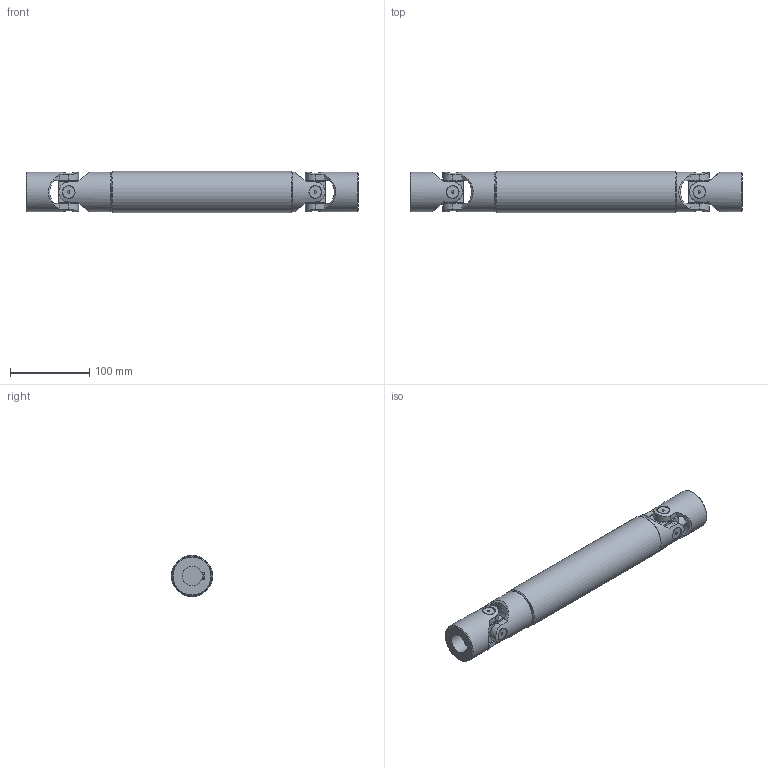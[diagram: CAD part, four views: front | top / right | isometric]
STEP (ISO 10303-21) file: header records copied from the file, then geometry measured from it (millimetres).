
FILE_DESCRIPTION(/* description */ (''),/* implementation_level */ '2;1');
FILE_NAME(/* name */ '\\SRV2016\Societa\Stefano\Disegni 3D\00Catalogo 3D\03Trasmissioni standard GA\5GA26\5GA26_SG0A2526.stp',/* time_stamp */ '2022-03-15T16:35:54+01:00',/* author */ ('acquisti'),/* organization */ (''),/* preprocessor_version */ 'ST-DEVELOPER v15.6',/* originating_system */ 'Autodesk Inventor 2015',/* authorisation */ '');
FILE_SCHEMA (('AUTOMOTIVE_DESIGN { 1 0 10303 214 3 1 1 }'));
Length unit declared in the file: millimetre
Products named in the file (5): 5G MOC; 5G SFE; 5GA26 LAI; 5GA26 LCI; 5GA26_SG0A2526
Assembly tree (6 placements, depth 2):
  5GA26_SG0A2526
    5G MOC  x2
    5G SFE  x2
    5GA26 LAI
    5GA26 LCI
Bounding box: 420 x 52.5 x 52.5 mm (x, y, z)
Volume: 580549.6 mm3; surface area: 154783.8 mm2
Topology: 6 solids, 6 shells, 204 faces, 513 edges, 345 vertices
Faces by surface type: plane 108, cylinder 68, cone 24, torus 4
Full cylindrical faces by diameter (mm): 3 x8, 16 x8, 23 x8, 28 x1, 32.4 x1, 45 x1, 50 x4, 52.5 x1
Entity records: 5370 total; most frequent: CARTESIAN_POINT 1605, DIRECTION 751, ORIENTED_EDGE 742, EDGE_CURVE 371, AXIS2_PLACEMENT_3D 299, VERTEX_POINT 269, EDGE_LOOP 210, FACE_OUTER_BOUND 158
